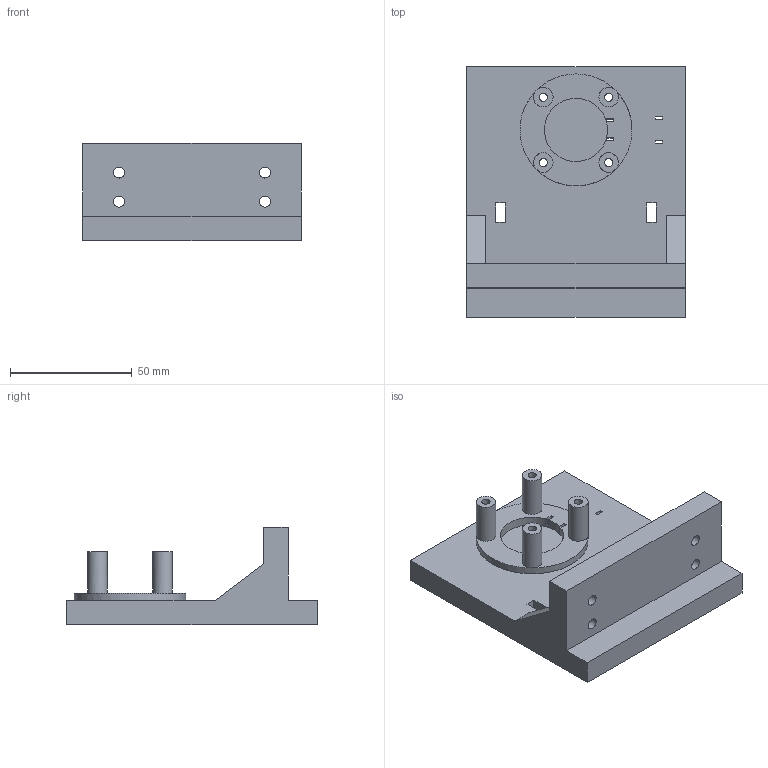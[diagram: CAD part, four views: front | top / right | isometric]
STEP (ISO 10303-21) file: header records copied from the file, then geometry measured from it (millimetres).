
FILE_DESCRIPTION(('Open CASCADE Model'),'2;1');
FILE_NAME('Open CASCADE Shape Model','2026-11-11T17:26:39',('Author'),( 'Open CASCADE'),'Open CASCADE STEP processor 7.9','Open CASCADE 7.9' ,'Unknown');
FILE_SCHEMA(('AUTOMOTIVE_DESIGN { 1 0 10303 214 1 1 1 1 }'));
Length unit declared in the file: millimetre
Products named in the file (1): Open CASCADE STEP translator 7.9 6
Bounding box: 90 x 103 x 40 mm (x, y, z)
Volume: 123507.8 mm3; surface area: 34326.3 mm2
Topology: 1 solids, 1 shells, 88 faces, 254 edges, 169 vertices
Faces by surface type: plane 72, cylinder 16
Full cylindrical faces by diameter (mm): 3.4 x4, 4.5 x4, 8 x4, 19.6 x1, 46 x1
Entity records: 6256 total; most frequent: CARTESIAN_POINT 1035, DIRECTION 978, LINE 682, VECTOR 682, ORIENTED_EDGE 508, PCURVE 508, DEFINITIONAL_REPRESENTATION 508, EDGE_CURVE 254
